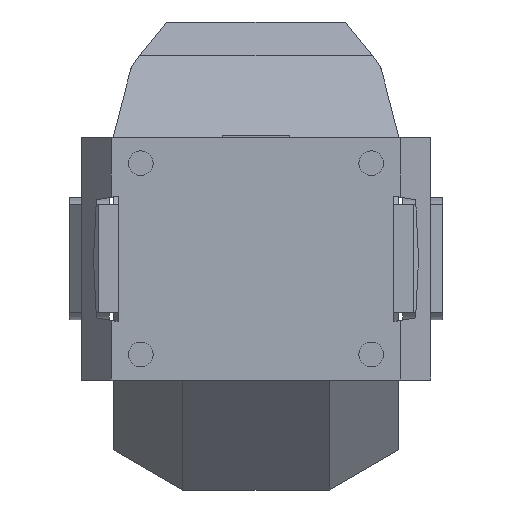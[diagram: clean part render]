
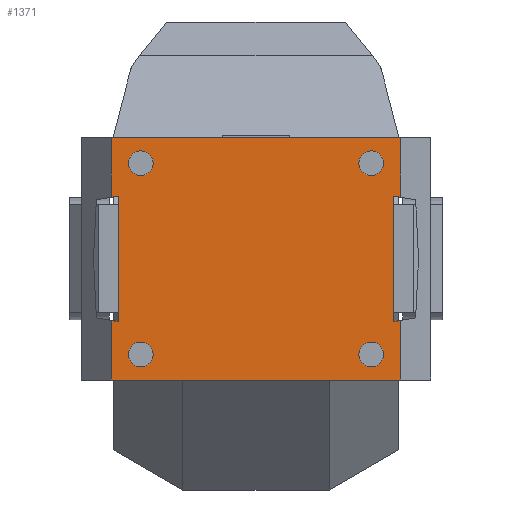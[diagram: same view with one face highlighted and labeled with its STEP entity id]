
A CAD part, front view. The second image highlights one B-rep face of the part: STEP entity #1371.
In plain terms, the highlighted planar face has unit normal (0, -1, 0).
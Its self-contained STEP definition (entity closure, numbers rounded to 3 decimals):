
#57=FACE_BOUND('',#221,.T.);
#58=FACE_BOUND('',#222,.T.);
#59=FACE_BOUND('',#223,.T.);
#60=FACE_BOUND('',#224,.T.);
#68=CIRCLE('',#1534,11.667);
#71=CIRCLE('',#1541,11.667);
#73=CIRCLE('',#1549,11.667);
#74=CIRCLE('',#1557,11.667);
#139=FACE_OUTER_BOUND('',#220,.T.);
#220=EDGE_LOOP('',(#1029,#1030,#1031,#1032,#1033,#1034,#1035,#1036,#1037,
#1038,#1039,#1040));
#221=EDGE_LOOP('',(#1041));
#222=EDGE_LOOP('',(#1042));
#223=EDGE_LOOP('',(#1043));
#224=EDGE_LOOP('',(#1044));
#281=LINE('',#2016,#429);
#288=LINE('',#2029,#436);
#292=LINE('',#2038,#440);
#310=LINE('',#2076,#458);
#319=LINE('',#2098,#467);
#325=LINE('',#2117,#473);
#330=LINE('',#2125,#478);
#333=LINE('',#2130,#481);
#341=LINE('',#2153,#489);
#344=LINE('',#2157,#492);
#348=LINE('',#2164,#496);
#354=LINE('',#2180,#502);
#429=VECTOR('',#1641,10.);
#436=VECTOR('',#1650,10.);
#440=VECTOR('',#1656,10.);
#458=VECTOR('',#1688,10.);
#467=VECTOR('',#1709,10.);
#473=VECTOR('',#1725,10.);
#478=VECTOR('',#1732,10.);
#481=VECTOR('',#1735,10.);
#489=VECTOR('',#1759,10.);
#492=VECTOR('',#1762,10.);
#496=VECTOR('',#1770,10.);
#502=VECTOR('',#1788,10.);
#577=VERTEX_POINT('',#2014);
#578=VERTEX_POINT('',#2015);
#583=VERTEX_POINT('',#2027);
#585=VERTEX_POINT('',#2032);
#587=VERTEX_POINT('',#2036);
#600=VERTEX_POINT('',#2075);
#601=VERTEX_POINT('',#2079);
#607=VERTEX_POINT('',#2096);
#609=VERTEX_POINT('',#2102);
#614=VERTEX_POINT('',#2114);
#615=VERTEX_POINT('',#2116);
#619=VERTEX_POINT('',#2128);
#623=VERTEX_POINT('',#2142);
#625=VERTEX_POINT('',#2150);
#626=VERTEX_POINT('',#2152);
#631=VERTEX_POINT('',#2173);
#705=EDGE_CURVE('',#577,#578,#281,.T.);
#712=EDGE_CURVE('',#583,#578,#288,.T.);
#716=EDGE_CURVE('',#587,#585,#292,.T.);
#734=EDGE_CURVE('',#600,#577,#310,.T.);
#736=EDGE_CURVE('',#601,#601,#68,.T.);
#745=EDGE_CURVE('',#607,#587,#319,.T.);
#748=EDGE_CURVE('',#609,#609,#71,.T.);
#753=EDGE_CURVE('',#615,#614,#325,.T.);
#758=EDGE_CURVE('',#600,#614,#330,.T.);
#761=EDGE_CURVE('',#583,#619,#333,.T.);
#768=EDGE_CURVE('',#623,#623,#73,.T.);
#771=EDGE_CURVE('',#625,#626,#341,.T.);
#774=EDGE_CURVE('',#607,#615,#344,.T.);
#778=EDGE_CURVE('',#625,#585,#348,.T.);
#783=EDGE_CURVE('',#631,#631,#74,.T.);
#786=EDGE_CURVE('',#626,#619,#354,.T.);
#1029=ORIENTED_EDGE('',*,*,#786,.F.);
#1030=ORIENTED_EDGE('',*,*,#771,.F.);
#1031=ORIENTED_EDGE('',*,*,#778,.T.);
#1032=ORIENTED_EDGE('',*,*,#716,.F.);
#1033=ORIENTED_EDGE('',*,*,#745,.F.);
#1034=ORIENTED_EDGE('',*,*,#774,.T.);
#1035=ORIENTED_EDGE('',*,*,#753,.T.);
#1036=ORIENTED_EDGE('',*,*,#758,.F.);
#1037=ORIENTED_EDGE('',*,*,#734,.T.);
#1038=ORIENTED_EDGE('',*,*,#705,.T.);
#1039=ORIENTED_EDGE('',*,*,#712,.F.);
#1040=ORIENTED_EDGE('',*,*,#761,.T.);
#1041=ORIENTED_EDGE('',*,*,#748,.F.);
#1042=ORIENTED_EDGE('',*,*,#736,.T.);
#1043=ORIENTED_EDGE('',*,*,#768,.F.);
#1044=ORIENTED_EDGE('',*,*,#783,.T.);
#1306=PLANE('',#1560);
#1371=ADVANCED_FACE('',(#139,#57,#58,#59,#60),#1306,.T.);
#1534=AXIS2_PLACEMENT_3D('',#2080,#1692,#1693);
#1541=AXIS2_PLACEMENT_3D('',#2104,#1715,#1716);
#1549=AXIS2_PLACEMENT_3D('',#2144,#1749,#1750);
#1557=AXIS2_PLACEMENT_3D('',#2174,#1779,#1780);
#1560=AXIS2_PLACEMENT_3D('',#2179,#1786,#1787);
#1641=DIRECTION('',(0.,0.,1.));
#1650=DIRECTION('',(-0.985,0.,0.174));
#1656=DIRECTION('',(0.,0.,1.));
#1688=DIRECTION('',(-0.985,0.,-0.174));
#1692=DIRECTION('center_axis',(0.,1.,0.));
#1693=DIRECTION('ref_axis',(-1.,0.,0.));
#1709=DIRECTION('',(0.985,0.,-0.174));
#1715=DIRECTION('center_axis',(0.,-1.,0.));
#1716=DIRECTION('ref_axis',(1.,0.,0.));
#1725=DIRECTION('',(1.,0.,0.));
#1732=DIRECTION('',(0.,0.,-1.));
#1735=DIRECTION('',(0.,0.,1.));
#1749=DIRECTION('center_axis',(0.,-1.,0.));
#1750=DIRECTION('ref_axis',(-1.,0.,0.));
#1759=DIRECTION('',(0.,0.,1.));
#1762=DIRECTION('',(0.,0.,-1.));
#1770=DIRECTION('',(0.985,0.,0.174));
#1779=DIRECTION('center_axis',(0.,1.,0.));
#1780=DIRECTION('ref_axis',(1.,0.,0.));
#1786=DIRECTION('center_axis',(0.,-1.,0.));
#1787=DIRECTION('ref_axis',(1.,0.,0.));
#1788=DIRECTION('',(1.,0.,0.));
#2014=CARTESIAN_POINT('',(129.748,-0.5,-59.163));
#2015=CARTESIAN_POINT('',(129.802,-0.5,59.153));
#2016=CARTESIAN_POINT('',(129.775,-0.5,0.001));
#2027=CARTESIAN_POINT('',(136.215,-0.5,58.022));
#2029=CARTESIAN_POINT('',(137.943,-0.5,57.718));
#2032=CARTESIAN_POINT('',(-129.802,-0.5,59.153));
#2036=CARTESIAN_POINT('',(-129.748,-0.5,-59.163));
#2038=CARTESIAN_POINT('',(-129.775,-0.5,0.001));
#2075=CARTESIAN_POINT('',(136.215,-0.5,-58.022));
#2076=CARTESIAN_POINT('',(137.943,-0.5,-57.718));
#2079=CARTESIAN_POINT('',(120.167,-0.5,-90.));
#2080=CARTESIAN_POINT('Origin',(108.5,-0.5,-90.));
#2096=CARTESIAN_POINT('',(-136.215,-0.5,-58.022));
#2098=CARTESIAN_POINT('',(-137.943,-0.5,-57.718));
#2102=CARTESIAN_POINT('',(-120.167,-0.5,-90.));
#2104=CARTESIAN_POINT('Origin',(-108.5,-0.5,-90.));
#2114=CARTESIAN_POINT('',(136.215,-0.5,-114.076));
#2116=CARTESIAN_POINT('',(-136.215,-0.5,-114.076));
#2117=CARTESIAN_POINT('',(-160.,-0.5,-114.076));
#2125=CARTESIAN_POINT('',(136.215,-0.5,0.));
#2128=CARTESIAN_POINT('',(136.215,-0.5,114.076));
#2130=CARTESIAN_POINT('',(136.215,-0.5,0.));
#2142=CARTESIAN_POINT('',(120.167,-0.5,90.));
#2144=CARTESIAN_POINT('Origin',(108.5,-0.5,90.));
#2150=CARTESIAN_POINT('',(-136.215,-0.5,58.022));
#2152=CARTESIAN_POINT('',(-136.215,-0.5,114.076));
#2153=CARTESIAN_POINT('',(-136.215,-0.5,0.));
#2157=CARTESIAN_POINT('',(-136.215,-0.5,0.));
#2164=CARTESIAN_POINT('',(-137.943,-0.5,57.718));
#2173=CARTESIAN_POINT('',(-120.167,-0.5,90.));
#2174=CARTESIAN_POINT('Origin',(-108.5,-0.5,90.));
#2179=CARTESIAN_POINT('Origin',(-136.215,-0.5,0.));
#2180=CARTESIAN_POINT('',(-160.,-0.5,114.076));
